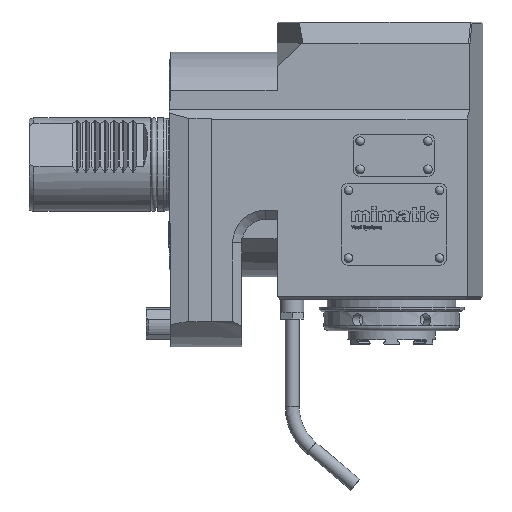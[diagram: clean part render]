
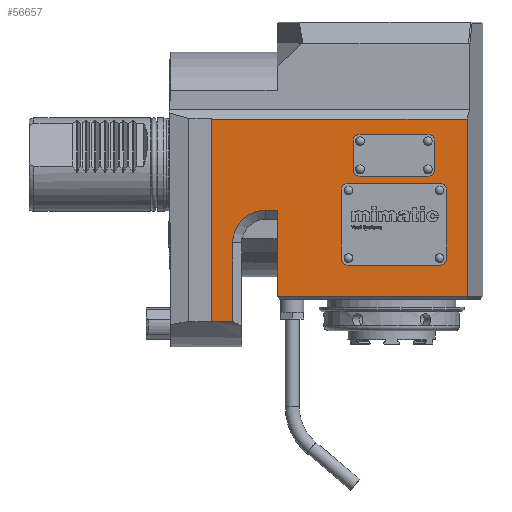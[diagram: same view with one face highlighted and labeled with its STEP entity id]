
A CAD part, front view. The second image highlights one B-rep face of the part: STEP entity #56657.
In plain terms, the highlighted planar face has unit normal (0, -1, 0).
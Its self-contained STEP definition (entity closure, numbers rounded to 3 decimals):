
#23856=CIRCLE('',#54760,14.);
#23857=CIRCLE('',#54761,3.);
#23858=CIRCLE('',#54762,3.);
#23859=CIRCLE('',#54763,3.);
#23860=CIRCLE('',#54764,3.);
#23861=CIRCLE('',#54765,3.);
#23862=CIRCLE('',#54766,3.);
#23863=CIRCLE('',#54767,3.);
#23864=CIRCLE('',#54768,3.);
#24796=ORIENTED_EDGE('',*,*,#32262,.F.);
#24797=ORIENTED_EDGE('',*,*,#32144,.F.);
#24798=ORIENTED_EDGE('',*,*,#32263,.F.);
#24799=ORIENTED_EDGE('',*,*,#32264,.F.);
#24800=ORIENTED_EDGE('',*,*,#32265,.F.);
#24801=ORIENTED_EDGE('',*,*,#32266,.T.);
#24802=ORIENTED_EDGE('',*,*,#32267,.T.);
#24803=ORIENTED_EDGE('',*,*,#32268,.F.);
#24804=ORIENTED_EDGE('',*,*,#32259,.F.);
#24805=ORIENTED_EDGE('',*,*,#32269,.T.);
#24806=ORIENTED_EDGE('',*,*,#32270,.T.);
#24807=ORIENTED_EDGE('',*,*,#32271,.T.);
#24808=ORIENTED_EDGE('',*,*,#32272,.T.);
#24809=ORIENTED_EDGE('',*,*,#32273,.T.);
#24810=ORIENTED_EDGE('',*,*,#32274,.T.);
#24811=ORIENTED_EDGE('',*,*,#32275,.T.);
#24812=ORIENTED_EDGE('',*,*,#32276,.T.);
#24813=ORIENTED_EDGE('',*,*,#32277,.F.);
#24814=ORIENTED_EDGE('',*,*,#32278,.T.);
#24815=ORIENTED_EDGE('',*,*,#32279,.F.);
#24816=ORIENTED_EDGE('',*,*,#32280,.T.);
#24817=ORIENTED_EDGE('',*,*,#32281,.F.);
#24818=ORIENTED_EDGE('',*,*,#32282,.T.);
#24819=ORIENTED_EDGE('',*,*,#32283,.F.);
#24820=ORIENTED_EDGE('',*,*,#32284,.T.);
#28526=VECTOR('',#36308,1.);
#28593=VECTOR('',#36551,1.);
#28596=VECTOR('',#36556,1.);
#28597=VECTOR('',#36559,1.);
#28598=VECTOR('',#36562,1.);
#28599=VECTOR('',#36563,1.);
#28600=VECTOR('',#36564,1.);
#28601=VECTOR('',#36565,1.);
#28602=VECTOR('',#36566,1.);
#28603=VECTOR('',#36569,1.);
#28604=VECTOR('',#36572,1.);
#28605=VECTOR('',#36575,1.);
#28606=VECTOR('',#36578,1.);
#28607=VECTOR('',#36581,1.);
#28608=VECTOR('',#36584,1.);
#28609=VECTOR('',#36587,1.);
#29651=LINE('',#40240,#28526);
#29718=LINE('',#40525,#28593);
#29721=LINE('',#40530,#28596);
#29722=LINE('',#40533,#28597);
#29723=LINE('',#40537,#28598);
#29724=LINE('',#40539,#28599);
#29725=LINE('',#40541,#28600);
#29726=LINE('',#40542,#28601);
#29727=LINE('',#40545,#28602);
#29728=LINE('',#40549,#28603);
#29729=LINE('',#40553,#28604);
#29730=LINE('',#40557,#28605);
#29731=LINE('',#40561,#28606);
#29732=LINE('',#40565,#28607);
#29733=LINE('',#40569,#28608);
#29734=LINE('',#40573,#28609);
#30780=VERTEX_POINT('',#40237);
#30781=VERTEX_POINT('',#40239);
#30862=VERTEX_POINT('',#40522);
#30863=VERTEX_POINT('',#40524);
#30865=VERTEX_POINT('',#40532);
#30866=VERTEX_POINT('',#40534);
#30867=VERTEX_POINT('',#40536);
#30868=VERTEX_POINT('',#40538);
#30869=VERTEX_POINT('',#40540);
#30870=VERTEX_POINT('',#40543);
#30871=VERTEX_POINT('',#40544);
#30872=VERTEX_POINT('',#40546);
#30873=VERTEX_POINT('',#40548);
#30874=VERTEX_POINT('',#40550);
#30875=VERTEX_POINT('',#40552);
#30876=VERTEX_POINT('',#40554);
#30877=VERTEX_POINT('',#40556);
#30878=VERTEX_POINT('',#40559);
#30879=VERTEX_POINT('',#40560);
#30880=VERTEX_POINT('',#40562);
#30881=VERTEX_POINT('',#40564);
#30882=VERTEX_POINT('',#40566);
#30883=VERTEX_POINT('',#40568);
#30884=VERTEX_POINT('',#40570);
#30885=VERTEX_POINT('',#40572);
#32144=EDGE_CURVE('',#30780,#30781,#29651,.T.);
#32259=EDGE_CURVE('',#30862,#30863,#29718,.T.);
#32262=EDGE_CURVE('',#30781,#30862,#29721,.T.);
#32263=EDGE_CURVE('',#30865,#30780,#29722,.T.);
#32264=EDGE_CURVE('',#30866,#30865,#23856,.T.);
#32265=EDGE_CURVE('',#30867,#30866,#29723,.T.);
#32266=EDGE_CURVE('',#30867,#30868,#29724,.T.);
#32267=EDGE_CURVE('',#30868,#30869,#29725,.T.);
#32268=EDGE_CURVE('',#30863,#30869,#29726,.T.);
#32269=EDGE_CURVE('',#30870,#30871,#29727,.T.);
#32270=EDGE_CURVE('',#30871,#30872,#23857,.T.);
#32271=EDGE_CURVE('',#30872,#30873,#29728,.T.);
#32272=EDGE_CURVE('',#30873,#30874,#23858,.T.);
#32273=EDGE_CURVE('',#30874,#30875,#29729,.T.);
#32274=EDGE_CURVE('',#30875,#30876,#23859,.T.);
#32275=EDGE_CURVE('',#30876,#30877,#29730,.T.);
#32276=EDGE_CURVE('',#30877,#30870,#23860,.T.);
#32277=EDGE_CURVE('',#30878,#30879,#29731,.T.);
#32278=EDGE_CURVE('',#30878,#30880,#23861,.T.);
#32279=EDGE_CURVE('',#30881,#30880,#29732,.T.);
#32280=EDGE_CURVE('',#30881,#30882,#23862,.T.);
#32281=EDGE_CURVE('',#30883,#30882,#29733,.T.);
#32282=EDGE_CURVE('',#30883,#30884,#23863,.T.);
#32283=EDGE_CURVE('',#30885,#30884,#29734,.T.);
#32284=EDGE_CURVE('',#30885,#30879,#23864,.T.);
#34171=EDGE_LOOP('',(#24796,#24797,#24798,#24799,#24800,#24801,#24802,#24803,
#24804));
#34172=EDGE_LOOP('',(#24805,#24806,#24807,#24808,#24809,#24810,#24811,#24812));
#34173=EDGE_LOOP('',(#24813,#24814,#24815,#24816,#24817,#24818,#24819,#24820));
#35255=FACE_BOUND('',#34171,.T.);
#35256=FACE_BOUND('',#34172,.T.);
#35257=FACE_BOUND('',#34173,.T.);
#36308=DIRECTION('',(-9.,0.,0.));
#36551=DIRECTION('',(109.301,0.,0.));
#36556=DIRECTION('',(0.,0.,86.463));
#36557=DIRECTION('',(0.,-1.,0.));
#36558=DIRECTION('',(-1.,0.,0.));
#36559=DIRECTION('',(0.,0.,-33.463));
#36560=DIRECTION('',(0.,-1.,0.));
#36561=DIRECTION('',(0.,0.,14.));
#36562=DIRECTION('',(-5.,0.,0.));
#36563=DIRECTION('',(0.,0.,-37.));
#36564=DIRECTION('',(81.301,0.,0.));
#36565=DIRECTION('',(0.,0.,-76.));
#36566=DIRECTION('',(29.,0.,0.));
#36567=DIRECTION('',(0.,1.,0.));
#36568=DIRECTION('',(0.,0.,3.));
#36569=DIRECTION('',(0.,0.,-12.));
#36570=DIRECTION('',(0.,1.,0.));
#36571=DIRECTION('',(3.,0.,0.));
#36572=DIRECTION('',(-29.,0.,0.));
#36573=DIRECTION('',(0.,1.,0.));
#36574=DIRECTION('',(0.,0.,-3.));
#36575=DIRECTION('',(0.,0.,12.));
#36576=DIRECTION('',(0.,1.,0.));
#36577=DIRECTION('',(-3.,0.,0.));
#36578=DIRECTION('',(0.,0.,29.));
#36579=DIRECTION('',(0.,1.,0.));
#36580=DIRECTION('',(0.,0.,-3.));
#36581=DIRECTION('',(39.,0.,0.));
#36582=DIRECTION('',(0.,1.,0.));
#36583=DIRECTION('',(0.,0.,-3.));
#36584=DIRECTION('',(0.,0.,-29.));
#36585=DIRECTION('',(0.,1.,0.));
#36586=DIRECTION('',(0.,0.,-3.));
#36587=DIRECTION('',(-39.,0.,0.));
#36588=DIRECTION('',(0.,1.,0.));
#36589=DIRECTION('',(0.,0.,-3.));
#40237=CARTESIAN_POINT('',(27.,-40.,-66.963));
#40239=CARTESIAN_POINT('',(18.,-40.,-66.963));
#40240=CARTESIAN_POINT('',(27.,-40.,-66.963));
#40522=CARTESIAN_POINT('',(18.,-40.,19.5));
#40524=CARTESIAN_POINT('',(127.301,-40.,19.5));
#40525=CARTESIAN_POINT('',(18.,-40.,19.5));
#40530=CARTESIAN_POINT('',(18.,-40.,-66.963));
#40531=CARTESIAN_POINT('',(46.,-40.,-26.533));
#40532=CARTESIAN_POINT('',(27.,-40.,-33.5));
#40533=CARTESIAN_POINT('',(27.,-40.,-33.5));
#40534=CARTESIAN_POINT('',(41.,-40.,-19.5));
#40535=CARTESIAN_POINT('',(41.,-40.,-33.5));
#40536=CARTESIAN_POINT('',(46.,-40.,-19.5));
#40537=CARTESIAN_POINT('',(46.,-40.,-19.5));
#40538=CARTESIAN_POINT('',(46.,-40.,-56.5));
#40539=CARTESIAN_POINT('',(46.,-40.,-19.5));
#40540=CARTESIAN_POINT('',(127.301,-40.,-56.5));
#40541=CARTESIAN_POINT('',(46.,-40.,-56.5));
#40542=CARTESIAN_POINT('',(127.301,-40.,19.5));
#40543=CARTESIAN_POINT('',(81.5,-40.,13.));
#40544=CARTESIAN_POINT('',(110.5,-40.,13.));
#40545=CARTESIAN_POINT('',(81.5,-40.,13.));
#40546=CARTESIAN_POINT('',(113.5,-40.,10.));
#40547=CARTESIAN_POINT('',(110.5,-40.,10.));
#40548=CARTESIAN_POINT('',(113.5,-40.,-2.));
#40549=CARTESIAN_POINT('',(113.5,-40.,10.));
#40550=CARTESIAN_POINT('',(110.5,-40.,-5.));
#40551=CARTESIAN_POINT('',(110.5,-40.,-2.));
#40552=CARTESIAN_POINT('',(81.5,-40.,-5.));
#40553=CARTESIAN_POINT('',(110.5,-40.,-5.));
#40554=CARTESIAN_POINT('',(78.5,-40.,-2.));
#40555=CARTESIAN_POINT('',(81.5,-40.,-2.));
#40556=CARTESIAN_POINT('',(78.5,-40.,10.));
#40557=CARTESIAN_POINT('',(78.5,-40.,-2.));
#40558=CARTESIAN_POINT('',(81.5,-40.,10.));
#40559=CARTESIAN_POINT('',(118.5,-40.,-40.));
#40560=CARTESIAN_POINT('',(118.5,-40.,-11.));
#40561=CARTESIAN_POINT('',(118.5,-40.,-40.));
#40562=CARTESIAN_POINT('',(115.5,-40.,-43.));
#40563=CARTESIAN_POINT('',(115.5,-40.,-40.));
#40564=CARTESIAN_POINT('',(76.5,-40.,-43.));
#40565=CARTESIAN_POINT('',(76.5,-40.,-43.));
#40566=CARTESIAN_POINT('',(73.5,-40.,-40.));
#40567=CARTESIAN_POINT('',(76.5,-40.,-40.));
#40568=CARTESIAN_POINT('',(73.5,-40.,-11.));
#40569=CARTESIAN_POINT('',(73.5,-40.,-11.));
#40570=CARTESIAN_POINT('',(76.5,-40.,-8.));
#40571=CARTESIAN_POINT('',(76.5,-40.,-11.));
#40572=CARTESIAN_POINT('',(115.5,-40.,-8.));
#40573=CARTESIAN_POINT('',(115.5,-40.,-8.));
#40574=CARTESIAN_POINT('',(115.5,-40.,-11.));
#54759=AXIS2_PLACEMENT_3D('',#40531,#36557,#36558);
#54760=AXIS2_PLACEMENT_3D('',#40535,#36560,#36561);
#54761=AXIS2_PLACEMENT_3D('',#40547,#36567,#36568);
#54762=AXIS2_PLACEMENT_3D('',#40551,#36570,#36571);
#54763=AXIS2_PLACEMENT_3D('',#40555,#36573,#36574);
#54764=AXIS2_PLACEMENT_3D('',#40558,#36576,#36577);
#54765=AXIS2_PLACEMENT_3D('',#40563,#36579,#36580);
#54766=AXIS2_PLACEMENT_3D('',#40567,#36582,#36583);
#54767=AXIS2_PLACEMENT_3D('',#40571,#36585,#36586);
#54768=AXIS2_PLACEMENT_3D('',#40574,#36588,#36589);
#56100=PLANE('',#54759);
#56657=ADVANCED_FACE('',(#35255,#35256,#35257),#56100,.T.);
